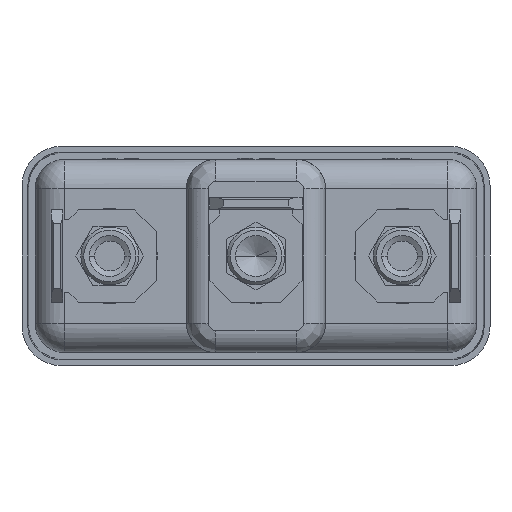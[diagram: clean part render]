
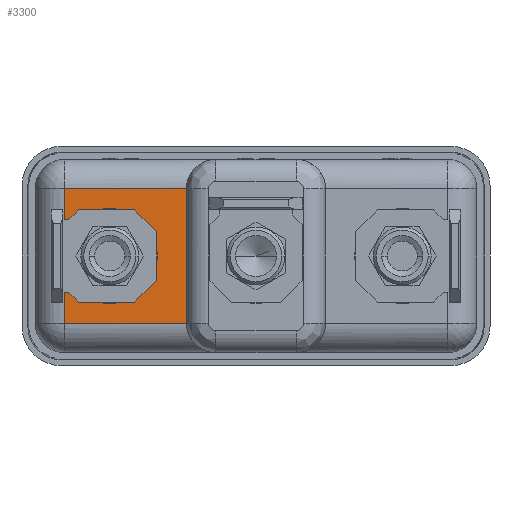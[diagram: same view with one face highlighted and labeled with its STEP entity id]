
A CAD part, front view. The second image highlights one B-rep face of the part: STEP entity #3300.
In plain terms, the highlighted planar face has unit normal (0, -1, 0) as drawn and (0, 1, 0) by its records, which use the part's own axes.
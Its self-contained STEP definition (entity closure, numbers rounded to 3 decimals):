
#624=CARTESIAN_POINT('',(-10.,22.2,0.));
#625=DIRECTION('',(0.,1.,0.));
#626=DIRECTION('',(1.,0.,0.));
#627=AXIS2_PLACEMENT_3D('',#624,#625,#626);
#629=DIRECTION('',(0.,0.,1.));
#630=VECTOR('',#629,3.624);
#631=CARTESIAN_POINT('',(-13.1,22.2,-4.6));
#632=LINE('',#631,#630);
#633=DIRECTION('',(-1.,0.,0.));
#634=VECTOR('',#633,8.35);
#635=CARTESIAN_POINT('',(-4.75,22.2,-4.6));
#636=LINE('',#635,#634);
#637=DIRECTION('',(0.,0.,-1.));
#638=VECTOR('',#637,9.2);
#639=CARTESIAN_POINT('',(-4.75,22.2,4.6));
#640=LINE('',#639,#638);
#641=DIRECTION('',(1.,0.,0.));
#642=VECTOR('',#641,8.35);
#643=CARTESIAN_POINT('',(-13.1,22.2,4.6));
#644=LINE('',#643,#642);
#645=DIRECTION('',(0.,0.,1.));
#646=VECTOR('',#645,3.624);
#647=CARTESIAN_POINT('',(-13.1,22.2,0.976));
#648=LINE('',#647,#646);
#649=CARTESIAN_POINT('',(-10.,22.2,0.));
#650=DIRECTION('',(0.,1.,0.));
#651=DIRECTION('',(-0.954,0.,0.3));
#652=AXIS2_PLACEMENT_3D('',#649,#650,#651);
#2070=CARTESIAN_POINT('',(-13.1,22.2,4.6));
#2071=CARTESIAN_POINT('',(-4.75,22.2,4.6));
#2072=VERTEX_POINT('',#2070);
#2073=VERTEX_POINT('',#2071);
#2080=CARTESIAN_POINT('',(-4.75,22.2,-4.6));
#2081=CARTESIAN_POINT('',(-13.1,22.2,-4.6));
#2082=VERTEX_POINT('',#2080);
#2083=VERTEX_POINT('',#2081);
#2330=CARTESIAN_POINT('',(-6.75,22.2,0.));
#2331=CARTESIAN_POINT('',(-13.1,22.2,-0.976));
#2332=VERTEX_POINT('',#2330);
#2333=VERTEX_POINT('',#2331);
#2334=CARTESIAN_POINT('',(-13.1,22.2,0.976));
#2335=VERTEX_POINT('',#2334);
#3282=CARTESIAN_POINT('',(0.,22.2,0.));
#3283=DIRECTION('',(0.,1.,0.));
#3284=DIRECTION('',(1.,0.,0.));
#3285=AXIS2_PLACEMENT_3D('',#3282,#3283,#3284);
#3286=PLANE('',#3285);
#3287=ORIENTED_EDGE('',*,*,#3270,.T.);
#3288=ORIENTED_EDGE('',*,*,#3260,.F.);
#3290=ORIENTED_EDGE('',*,*,#3289,.F.);
#3292=ORIENTED_EDGE('',*,*,#3291,.F.);
#3294=ORIENTED_EDGE('',*,*,#3293,.F.);
#3295=ORIENTED_EDGE('',*,*,#3253,.F.);
#3297=ORIENTED_EDGE('',*,*,#3296,.T.);
#3298=EDGE_LOOP('',(#3287,#3288,#3290,#3292,#3294,#3295,#3297));
#3299=FACE_OUTER_BOUND('',#3298,.F.);
#628=CIRCLE('',#627,3.25);
#653=CIRCLE('',#652,3.25);
#3253=EDGE_CURVE('',#2335,#2072,#648,.T.);
#3260=EDGE_CURVE('',#2083,#2333,#632,.T.);
#3270=EDGE_CURVE('',#2332,#2333,#628,.T.);
#3289=EDGE_CURVE('',#2082,#2083,#636,.T.);
#3291=EDGE_CURVE('',#2073,#2082,#640,.T.);
#3293=EDGE_CURVE('',#2072,#2073,#644,.T.);
#3296=EDGE_CURVE('',#2335,#2332,#653,.T.);
#3300=ADVANCED_FACE('',(#3299),#3286,.T.);
